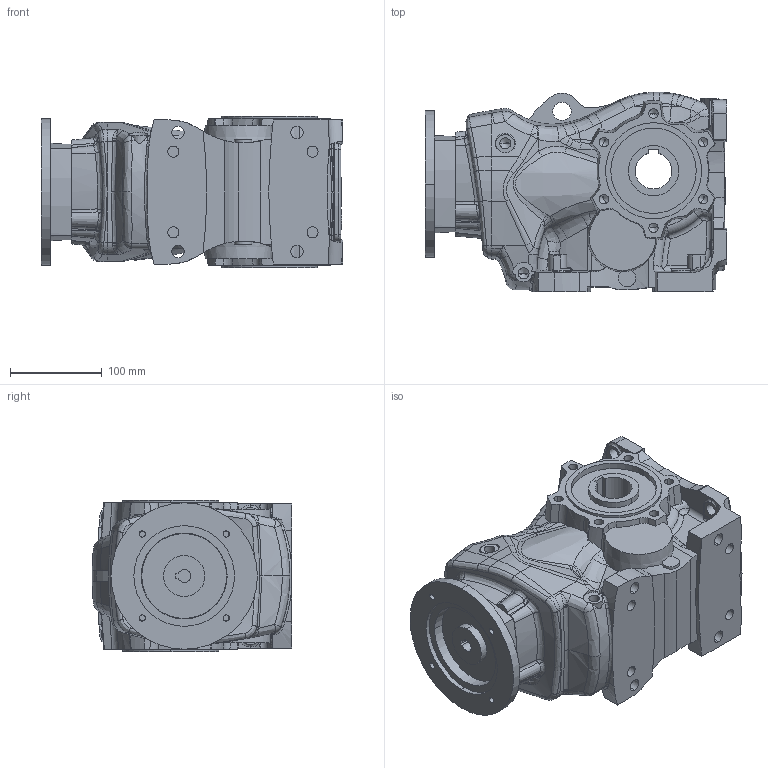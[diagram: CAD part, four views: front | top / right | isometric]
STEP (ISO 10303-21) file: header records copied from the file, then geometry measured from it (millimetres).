
FILE_DESCRIPTION((''),'2;1');
FILE_NAME('ENDURO5_ASM','2015-06-09T',('Luca'),(''),'PRO/ENGINEER BY PARAMETRIC TECHNOLOGY CORPORATION, 2008230','PRO/ENGINEER BY PARAMETRIC TECHNOLOGY CORPORATION, 2008230','');
FILE_SCHEMA(('CONFIG_CONTROL_DESIGN'));
Length unit declared in the file: millimetre
Products named in the file (3): HOUEN5; IFL71EN5; ENDURO5_ASM
Assembly tree (2 placements, depth 2):
  ENDURO5_ASM
    HOUEN5
    IFL71EN5
Bounding box: 329.38 x 217.93 x 166 mm (x, y, z)
Volume: 7056370.4 mm3; surface area: 453158.2 mm2
Topology: 2 solids, 3 shells, 1168 faces, 3237 edges, 2084 vertices
Faces by surface type: cylinder 333, plane 293, bspline 278, cone 167, torus 74, extrusion 20, sphere 3
Entity records: 48006 total; most frequent: CARTESIAN_POINT 21258, ORIENTED_EDGE 6412, DIRECTION 4475, EDGE_CURVE 3206, VERTEX_POINT 2084, AXIS2_PLACEMENT_3D 1797, B_SPLINE_CURVE_WITH_KNOTS 1443, EDGE_LOOP 1250
